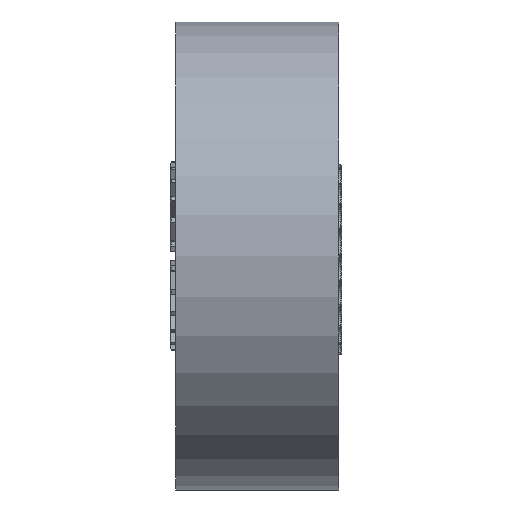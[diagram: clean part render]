
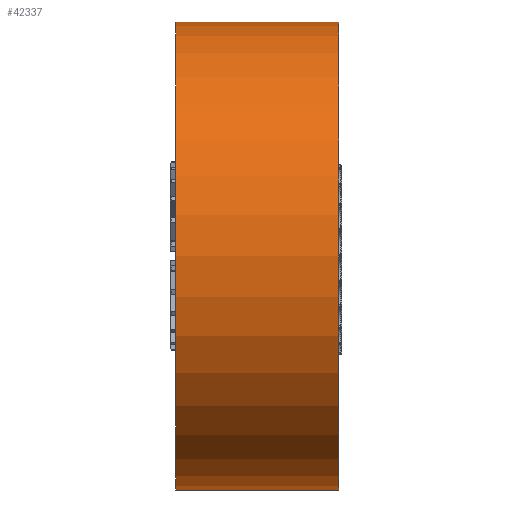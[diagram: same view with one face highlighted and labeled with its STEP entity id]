
A CAD part, left-side view. The second image highlights one B-rep face of the part: STEP entity #42337.
In plain terms, the highlighted cylindrical face has radius 100 mm (diameter 200 mm), a partial arc.
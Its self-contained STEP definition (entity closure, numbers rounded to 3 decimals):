
#3947 = LINE ( 'NONE', #21593, #9963 ) ;
#4262 = ORIENTED_EDGE ( 'NONE', *, *, #18785, .T. ) ;
#4388 = CARTESIAN_POINT ( 'NONE',  ( 0., 71.054, 100. ) ) ;
#6352 = CARTESIAN_POINT ( 'NONE',  ( 0., 71.054, -100. ) ) ;
#6425 = CARTESIAN_POINT ( 'NONE',  ( 0., 1.306, 0. ) ) ;
#8860 = DIRECTION ( 'NONE',  ( 0., 0., -1. ) ) ;
#9963 = VECTOR ( 'NONE', #17352, 1000. ) ;
#10516 = AXIS2_PLACEMENT_3D ( 'NONE', #6425, #43648, #14699 ) ;
#12502 = EDGE_LOOP ( 'NONE', ( #58939, #4262, #60090, #35331 ) ) ;
#13194 = CYLINDRICAL_SURFACE ( 'NONE', #53044, 100. ) ;
#13883 = VERTEX_POINT ( 'NONE', #4388 ) ;
#14699 = DIRECTION ( 'NONE',  ( 0., 0., -1. ) ) ;
#17352 = DIRECTION ( 'NONE',  ( 0., -1., 0. ) ) ;
#17468 = CARTESIAN_POINT ( 'NONE',  ( 0., 0., 0. ) ) ;
#18785 = EDGE_CURVE ( 'NONE', #13883, #22130, #44485, .T. ) ;
#19008 = DIRECTION ( 'NONE',  ( 0., -1., 0. ) ) ;
#21593 = CARTESIAN_POINT ( 'NONE',  ( 0., 0., 100. ) ) ;
#21652 = EDGE_CURVE ( 'NONE', #22130, #37009, #37322, .T. ) ;
#22130 = VERTEX_POINT ( 'NONE', #6352 ) ;
#22320 = DIRECTION ( 'NONE',  ( 0., -1., 0. ) ) ;
#22807 = CARTESIAN_POINT ( 'NONE',  ( 0., 1.306, 100. ) ) ;
#24317 = EDGE_CURVE ( 'NONE', #48395, #37009, #49490, .T. ) ;
#31613 = EDGE_CURVE ( 'NONE', #13883, #48395, #3947, .T. ) ;
#35331 = ORIENTED_EDGE ( 'NONE', *, *, #24317, .F. ) ;
#36373 = FACE_OUTER_BOUND ( 'NONE', #12502, .T. ) ;
#37009 = VERTEX_POINT ( 'NONE', #42330 ) ;
#37322 = LINE ( 'NONE', #55048, #43041 ) ;
#40657 = DIRECTION ( 'NONE',  ( 0., 0., -1. ) ) ;
#42330 = CARTESIAN_POINT ( 'NONE',  ( 0., 1.306, -100. ) ) ;
#42337 = ADVANCED_FACE ( 'NONE', ( #36373 ), #13194, .T. ) ;
#43041 = VECTOR ( 'NONE', #19008, 1000. ) ;
#43648 = DIRECTION ( 'NONE',  ( 0., -1., 0. ) ) ;
#44485 = CIRCLE ( 'NONE', #57117, 100. ) ;
#48395 = VERTEX_POINT ( 'NONE', #22807 ) ;
#49490 = CIRCLE ( 'NONE', #10516, 100. ) ;
#53044 = AXIS2_PLACEMENT_3D ( 'NONE', #17468, #22320, #40657 ) ;
#54629 = DIRECTION ( 'NONE',  ( 0., -1., 0. ) ) ;
#55048 = CARTESIAN_POINT ( 'NONE',  ( 0., 0., -100. ) ) ;
#57117 = AXIS2_PLACEMENT_3D ( 'NONE', #60128, #54629, #8860 ) ;
#58939 = ORIENTED_EDGE ( 'NONE', *, *, #31613, .F. ) ;
#60090 = ORIENTED_EDGE ( 'NONE', *, *, #21652, .T. ) ;
#60128 = CARTESIAN_POINT ( 'NONE',  ( 0., 71.054, 0. ) ) ;
